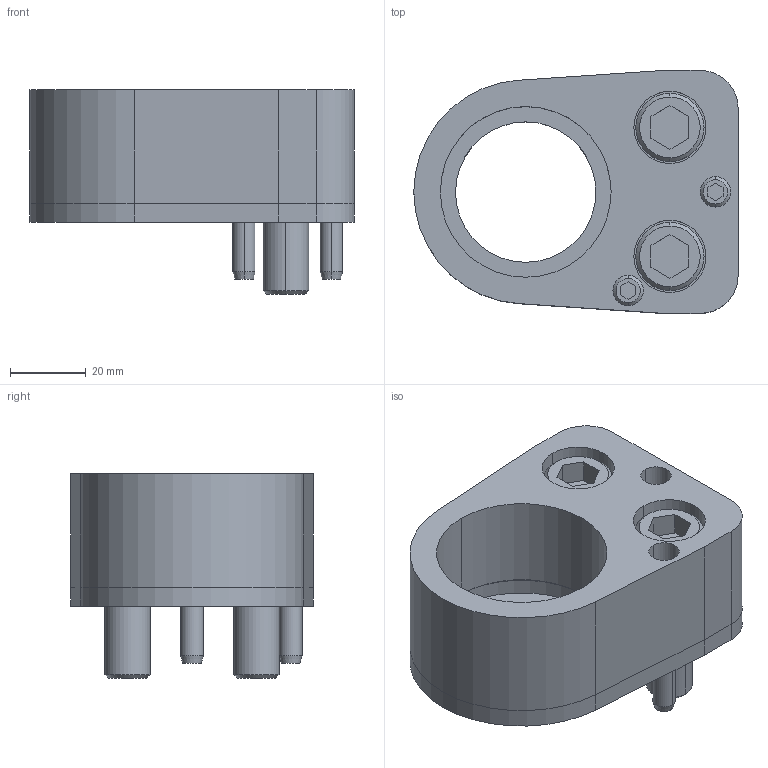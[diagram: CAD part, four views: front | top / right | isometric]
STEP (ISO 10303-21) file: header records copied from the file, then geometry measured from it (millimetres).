
FILE_DESCRIPTION(/* description */ (''),/* implementation_level */ '2;1');
FILE_NAME(/* name */ '3d_cp-ad45_03060_r00.stp',/* time_stamp */ '2011-01-10T14:16:31+09:00',/* author */ ('MISUMI'),/* organization */ (''),/* preprocessor_version */ 'ST-DEVELOPER v11',/* originating_system */ 'UGS - NX 5.0',/* authorisation */ '');
FILE_SCHEMA (('CONFIG_CONTROL_DESIGN'));
Length unit declared in the file: millimetre
Products named in the file (1): 3d_cp-ad45_03060_r00
Bounding box: 85.5 x 64 x 54 mm (x, y, z)
Volume: 114005.8 mm3; surface area: 39260.1 mm2
Topology: 8 solids, 8 shells, 155 faces, 346 edges, 222 vertices
Faces by surface type: plane 67, cylinder 62, cone 26
Entity records: 4474 total; most frequent: DIRECTION 804, CARTESIAN_POINT 772, ORIENTED_EDGE 692, EDGE_CURVE 346, AXIS2_PLACEMENT_3D 306, VERTEX_POINT 222, LINE 192, VECTOR 192
